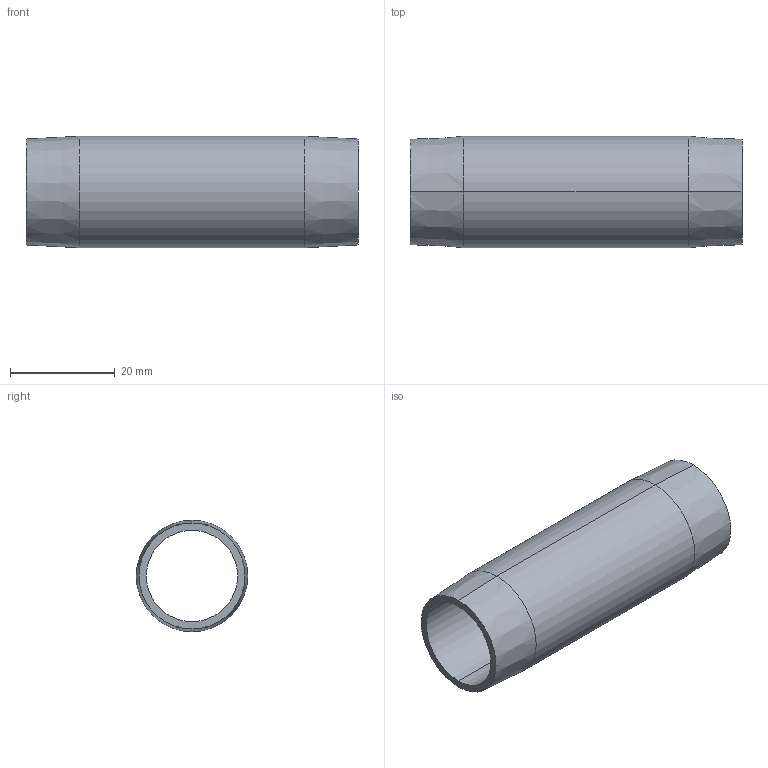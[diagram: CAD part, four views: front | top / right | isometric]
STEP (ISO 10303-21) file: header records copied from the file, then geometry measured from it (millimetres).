
FILE_DESCRIPTION (( 'STEP AP203' ), '1' );
FILE_NAME ('GPN50L2.5.step', '2020-08-19T07:54:34', ( 'Microsoft Corporation' ), ( 'MS' ), 'SwSTEP 2.0', 'SolidWorks 2018', '' );
FILE_SCHEMA (( 'CONFIG_CONTROL_DESIGN' ));
Length unit declared in the file: inch
Products named in the file (1): GPN50L2.5
Bounding box: 63.5 x 21.34 x 21.34 mm (x, y, z)
Volume: 7127.9 mm3; surface area: 7872.2 mm2
Topology: 1 solids, 1 shells, 10 faces, 20 edges, 12 vertices
Faces by surface type: cylinder 4, cone 4, plane 2
Entity records: 347 total; most frequent: DIRECTION 54, CARTESIAN_POINT 43, ORIENTED_EDGE 40, AXIS2_PLACEMENT_3D 23, EDGE_CURVE 20, EDGE_LOOP 12, CIRCLE 12, VERTEX_POINT 12
